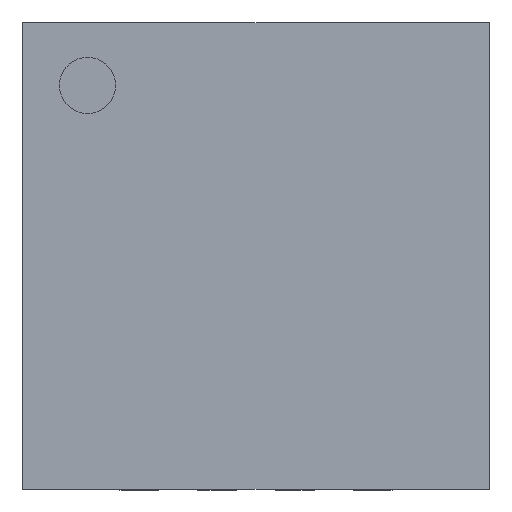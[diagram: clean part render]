
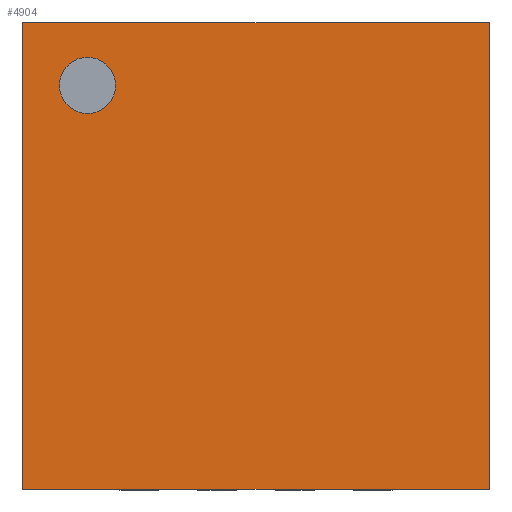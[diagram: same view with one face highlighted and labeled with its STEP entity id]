
A CAD part, top view. The second image highlights one B-rep face of the part: STEP entity #4904.
In plain terms, the highlighted planar face has unit normal (0, 0, 1).
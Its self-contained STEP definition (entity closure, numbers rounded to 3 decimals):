
#78=CIRCLE('',#5149,0.181);
#960=ORIENTED_EDGE('',*,*,#1640,.T.);
#961=ORIENTED_EDGE('',*,*,#1634,.T.);
#962=ORIENTED_EDGE('',*,*,#1559,.T.);
#963=ORIENTED_EDGE('',*,*,#1567,.T.);
#964=ORIENTED_EDGE('',*,*,#1639,.T.);
#1559=EDGE_CURVE('',#1973,#1972,#2397,.T.);
#1567=EDGE_CURVE('',#1972,#1979,#2405,.T.);
#1634=EDGE_CURVE('',#2027,#1973,#2460,.T.);
#1639=EDGE_CURVE('',#1979,#2027,#2465,.T.);
#1640=EDGE_CURVE('',#2030,#2030,#78,.T.);
#1972=VERTEX_POINT('',#6921);
#1973=VERTEX_POINT('',#6923);
#1979=VERTEX_POINT('',#6937);
#2027=VERTEX_POINT('',#7065);
#2030=VERTEX_POINT('',#7076);
#2397=LINE('',#6922,#2855);
#2405=LINE('',#6938,#2863);
#2460=LINE('',#7064,#2918);
#2465=LINE('',#7073,#2923);
#2855=VECTOR('',#5868,1000.);
#2863=VECTOR('',#5878,1000.);
#2918=VECTOR('',#5981,1000.);
#2923=VECTOR('',#5988,1000.);
#3123=EDGE_LOOP('',(#960));
#3124=EDGE_LOOP('',(#961,#962,#963,#964));
#3307=FACE_BOUND('',#3123,.T.);
#3308=FACE_BOUND('',#3124,.T.);
#3467=PLANE('',#5148);
#4904=ADVANCED_FACE('',(#3307,#3308),#3467,.T.);
#5148=AXIS2_PLACEMENT_3D('',#7074,#5989,#5990);
#5149=AXIS2_PLACEMENT_3D('',#7075,#5991,#5992);
#5868=DIRECTION('',(0.,1.,0.));
#5878=DIRECTION('',(-1.,0.,0.));
#5981=DIRECTION('',(1.,0.,0.));
#5988=DIRECTION('',(0.,-1.,0.));
#5989=DIRECTION('',(0.,0.,1.));
#5990=DIRECTION('',(1.,0.,0.));
#5991=DIRECTION('',(0.,0.,-1.));
#5992=DIRECTION('',(1.,0.,0.));
#6921=CARTESIAN_POINT('',(1.5,1.5,0.7));
#6922=CARTESIAN_POINT('',(1.5,-1.5,0.7));
#6923=CARTESIAN_POINT('',(1.5,-1.5,0.7));
#6937=CARTESIAN_POINT('',(-1.5,1.5,0.7));
#6938=CARTESIAN_POINT('',(1.5,1.5,0.7));
#7064=CARTESIAN_POINT('',(-1.5,-1.5,0.7));
#7065=CARTESIAN_POINT('',(-1.5,-1.5,0.7));
#7073=CARTESIAN_POINT('',(-1.5,1.5,0.7));
#7074=CARTESIAN_POINT('',(0.,0.,0.7));
#7075=CARTESIAN_POINT('',(-1.084,1.097,0.7));
#7076=CARTESIAN_POINT('',(-0.904,1.097,0.7));
